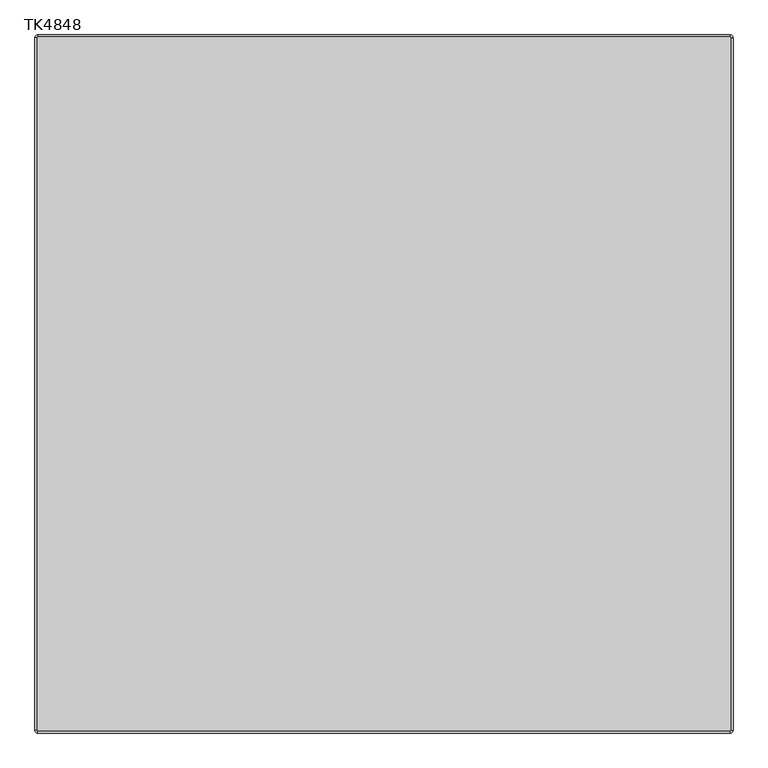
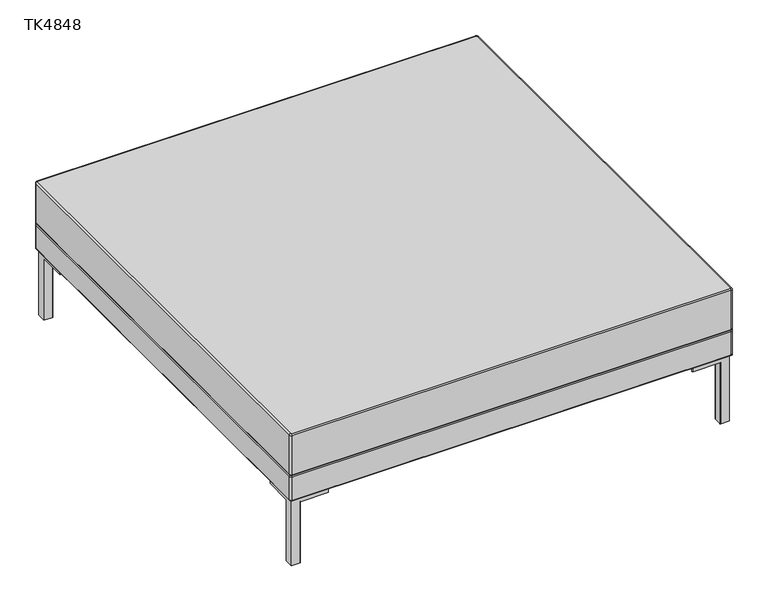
"""IFC4 building model written with IfcOpenShell, lengths in millimetres: furniture geometry, JSI-Teekan-Square_Ottoman : TK4848."""

from ifc_helpers import new_model, si_unit, point, frame, origin, place, context, project, spatial, circle_curve, ellipse_curve, trimmed, source, transform, mapped, element, save
from ifc_brep_helpers import plane_surface, cylinder_surface, revolved_surface, advanced_brep


def tk4848_6d53636c(model_context):
    return source(origin(), model_context, "Body", "AdvancedBrep", [
        advanced_brep(
        [(560.3875, -501.65, 192.6567329), (501.65, -560.3875, 192.6567329), (501.65, -601.6963055, 192.6567329), (601.6963055, -601.6963055, 192.6567329), (601.6963055, -501.65, 192.6567329), (501.65, -560.3875, 189.4817329), (560.3875, -501.65, 189.4817329), (600.075, -501.65, 189.4817329), (600.075, -577.85, 189.4817329), (579.4445539, -577.85, 189.4817329), (577.85, -579.4445539, 189.4817329), (577.85, -600.075, 189.4817329), (501.65, -600.075, 189.4817329), (603.25, -501.65, 191.1030384), (603.25, -501.65, 178.3692329), (600.075, -501.65, 178.3692329), (501.65, -600.075, 178.3692329), (501.65, -603.25, 178.3692329), (501.65, -603.25, 191.1030384), (601.6715276, -577.85, 0.0), (603.25, -579.4284724, 0.0), (603.25, -603.25, 0.0), (579.4303762, -603.25, 0.0), (577.85, -601.6696238, 0.0), (577.85, -579.4445539, 0.0), (579.4445539, -577.85, 0.0), (600.075, -577.85, 178.3692329), (601.6715276, -577.85, 178.3692329), (577.85, -601.6696238, 178.3692329), (577.85, -600.075, 178.3692329), (579.4303762, -603.25, 178.3692329), (603.25, -603.25, 191.1030384), (603.25, -579.4284724, 178.3692329)],
        [
            (0, 1),
            (1, 2),
            (2, 3),
            (3, 4),
            (4, 0),
            (5, 6),
            (6, 7),
            (7, 8),
            (8, 9),
            (9, 10, circle_curve(frame((579.4445539, -579.4445539, 189.4817329), z_axis=(0.0, 0.0, 1.0), x_axis=(-1.0, 0.0, 0.0)), 1.5945539)),
            (10, 11),
            (11, 12),
            (12, 5),
            (4, 13, circle_curve(frame((601.6963055, -501.65, 191.1030384), z_axis=(0.0, 1.0, 0.0), x_axis=(-1.0, 0.0, 0.0)), 1.5536945)),
            (13, 14),
            (14, 15),
            (15, 7),
            (6, 0),
            (5, 1),
            (12, 16),
            (16, 17),
            (17, 18),
            (18, 2, circle_curve(frame((501.65, -601.6963055, 191.1030384), z_axis=(-1.0, 0.0, 0.0), x_axis=(0.0, 1.0, 0.0)), 1.5536945)),
            (19, 20, circle_curve(frame((601.6715276, -579.4284724, 0.0), z_axis=(0.0, 0.0, -1.0), x_axis=(-1.0, 0.0, 0.0)), 1.5784724)),
            (20, 21),
            (21, 22),
            (22, 23, circle_curve(frame((579.4303762, -601.6696238, 0.0), z_axis=(0.0, 0.0, -1.0), x_axis=(-1.0, 0.0, 0.0)), 1.5803762)),
            (23, 24),
            (24, 25, circle_curve(frame((579.4445539, -579.4445539, 0.0), z_axis=(0.0, 0.0, -1.0), x_axis=(-1.0, 0.0, 0.0)), 1.5945539)),
            (25, 19),
            (25, 9),
            (8, 26),
            (26, 27),
            (27, 19),
            (24, 10),
            (23, 28),
            (28, 29),
            (29, 11),
            (22, 30),
            (30, 28, circle_curve(frame((579.4303762, -601.6696238, 178.3692329), z_axis=(0.0, 0.0, -1.0), x_axis=(-1.0, 0.0, 0.0)), 1.5803762)),
            (21, 31),
            (31, 18),
            (17, 30),
            (20, 32),
            (32, 14),
            (13, 31),
            (27, 32, circle_curve(frame((601.6715276, -579.4284724, 178.3692329), z_axis=(0.0, 0.0, -1.0), x_axis=(-1.0, 0.0, 0.0)), 1.5784724)),
            (29, 16),
            (26, 15),
            (31, 3, ellipse_curve(frame((601.6963055, -601.6963055, 191.1030384), z_axis=(-0.7071067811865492, -0.7071067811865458, 0.0), x_axis=(-0.7071067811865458, 0.7071067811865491, 0.0)), 2.1972559, 1.5536945)),
        ],
        [
            plane_surface(frame((587.4204481, -587.4204481, 192.6567329), z_axis=(0.0, 0.0, 1.0), x_axis=(1.0, 0.0, 0.0))),
            plane_surface(frame((587.4204481, -587.4204481, 189.4817329), z_axis=(0.0, 0.0, -1.0), x_axis=(-1.0, 0.0, 0.0))),
            plane_surface(frame((587.4204481, -501.65, 192.6567329), z_axis=(0.0, 1.0, 0.0), x_axis=(0.0, 0.0, -1.0))),
            plane_surface(frame((560.3875, -501.65, 192.6567329), z_axis=(-0.7071067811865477, 0.7071067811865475, 0.0), x_axis=(0.0, 0.0, -1.0))),
            plane_surface(frame((501.65, -560.3875, 192.6567329), z_axis=(-1.0, 0.0, 0.0), x_axis=(0.0, 0.0, -1.0))),
            plane_surface(frame((579.4375, -577.85, 0.0), z_axis=(0.0, 0.0, -1.0), x_axis=(1.0, 0.0, 0.0))),
            plane_surface(frame((601.6715276, -577.85, 189.4817329), z_axis=(0.0, 1.0, 0.0), x_axis=(0.0, 0.0, -1.0))),
            cylinder_surface(frame((579.4445539, -579.4445539, 0.0), z_axis=(0.0, 0.0, 1.0), x_axis=(-1.0, 0.0, 0.0)), 1.5945539),
            plane_surface(frame((577.85, -579.4445539, 189.4817329), z_axis=(-1.0, 0.0, 0.0), x_axis=(0.0, 0.0, -1.0))),
            cylinder_surface(frame((579.4303762, -601.6696238, 0.0), z_axis=(0.0, 0.0, 1.0), x_axis=(-1.0, 0.0, 0.0)), 1.5803762),
            plane_surface(frame((579.4303762, -603.25, 189.4817329), z_axis=(0.0, -1.0, 0.0), x_axis=(0.0, 0.0, -1.0))),
            plane_surface(frame((603.25, -603.25, 189.4817329), z_axis=(1.0, 0.0, 0.0), x_axis=(0.0, 0.0, -1.0))),
            cylinder_surface(frame((601.6715276, -579.4284724, 0.0), z_axis=(0.0, 0.0, 1.0), x_axis=(-1.0, 0.0, 0.0)), 1.5784724),
            plane_surface(frame((501.65, -600.075, 189.4817329), z_axis=(0.0, 1.0, 0.0), x_axis=(1.0, 0.0, 0.0))),
            plane_surface(frame((501.65, -600.075, 178.3692329), z_axis=(0.0, 0.0, -1.0), x_axis=(1.0, 0.0, 0.0))),
            cylinder_surface(frame((501.65, -601.6963055, 191.1030384), z_axis=(-1.0, 0.0, 0.0), x_axis=(0.0, 1.0, 0.0)), 1.5536945),
            plane_surface(frame((600.075, -600.075, 189.4817329), z_axis=(-1.0, 0.0, 0.0), x_axis=(0.0, 1.0, 0.0))),
            cylinder_surface(frame((601.6963055, -603.25, 191.1030384), z_axis=(0.0, -1.0, 0.0), x_axis=(-1.0, 0.0, 0.0)), 1.5536945),
        ],
        [
            (0, [[1, 2, 3, 4, 5]]),
            (1, [[6, 7, 8, 9, 10, 11, 12, 13]]),
            (2, [[-5, 14, 15, 16, 17, -7, 18]]),
            (3, [[-1, -18, -6, 19]]),
            (4, [[-2, -19, -13, 20, 21, 22, 23]]),
            (5, [[24, 25, 26, 27, 28, 29, 30]]),
            (6, [[-30, 31, -9, 32, 33, 34]]),
            (7, [[-29, 35, -10, -31]]),
            (8, [[-28, 36, 37, 38, -11, -35]]),
            (9, [[-27, 39, 40, -36]]),
            (10, [[-26, 41, 42, -22, 43, -39]]),
            (11, [[-41, -25, 44, 45, -15, 46]]),
            (12, [[-24, -34, 47, -44]]),
            (13, [[-20, -12, -38, 48]]),
            (14, [[-16, -45, -47, -33, 49]]),
            (14, [[-21, -48, -37, -40, -43]]),
            (15, [[-23, -42, 50, -3]]),
            (16, [[-17, -49, -32, -8]]),
            (17, [[-50, -46, -14, -4]]),
        ],
    ),
        advanced_brep(
        [(560.3875, 501.65, 192.6567329), (601.6963055, 501.65, 192.6567329), (601.6963055, 601.6963055, 192.6567329), (501.65, 601.6963055, 192.6567329), (501.65, 560.3875, 192.6567329), (501.65, 560.3875, 189.4817329), (501.65, 600.075, 189.4817329), (577.85, 600.075, 189.4817329), (577.85, 579.4445539, 189.4817329), (579.4445539, 577.85, 189.4817329), (600.075, 577.85, 189.4817329), (600.075, 501.65, 189.4817329), (560.3875, 501.65, 189.4817329), (600.075, 501.65, 178.3692329), (603.25, 501.65, 178.3692329), (603.25, 501.65, 191.1030384), (501.65, 603.25, 191.1030384), (501.65, 603.25, 178.3692329), (501.65, 600.075, 178.3692329), (601.6715276, 577.85, 0.0), (579.4445539, 577.85, 0.0), (577.85, 579.4445539, 0.0), (577.85, 601.6696238, 0.0), (579.4303762, 603.25, 0.0), (603.25, 603.25, 0.0), (603.25, 579.4284724, 0.0), (601.6715276, 577.85, 178.3692329), (600.075, 577.85, 178.3692329), (577.85, 600.075, 178.3692329), (577.85, 601.6696238, 178.3692329), (579.4303762, 603.25, 178.3692329), (603.25, 603.25, 191.1030384), (603.25, 579.4284724, 178.3692329)],
        [
            (0, 1),
            (1, 2),
            (2, 3),
            (3, 4),
            (4, 0),
            (5, 6),
            (6, 7),
            (7, 8),
            (8, 9, circle_curve(frame((579.4445539, 579.4445539, 189.4817329), z_axis=(0.0, 0.0, 1.0), x_axis=(-1.0, 0.0, 0.0)), 1.5945539)),
            (9, 10),
            (10, 11),
            (11, 12),
            (12, 5),
            (0, 12),
            (11, 13),
            (13, 14),
            (14, 15),
            (15, 1, circle_curve(frame((601.6963055, 501.65, 191.1030384), z_axis=(0.0, -1.0, 0.0), x_axis=(-1.0, 0.0, 0.0)), 1.5536945)),
            (4, 5),
            (3, 16, circle_curve(frame((501.65, 601.6963055, 191.1030384), z_axis=(-1.0, 0.0, 0.0), x_axis=(0.0, -1.0, 0.0)), 1.5536945)),
            (16, 17),
            (17, 18),
            (18, 6),
            (19, 20),
            (20, 21, circle_curve(frame((579.4445539, 579.4445539, 0.0), z_axis=(0.0, 0.0, -1.0), x_axis=(-1.0, 0.0, 0.0)), 1.5945539)),
            (21, 22),
            (22, 23, circle_curve(frame((579.4303762, 601.6696238, 0.0), z_axis=(0.0, 0.0, -1.0), x_axis=(-1.0, 0.0, 0.0)), 1.5803762)),
            (23, 24),
            (24, 25),
            (25, 19, circle_curve(frame((601.6715276, 579.4284724, 0.0), z_axis=(0.0, 0.0, -1.0), x_axis=(-1.0, 0.0, 0.0)), 1.5784724)),
            (19, 26),
            (26, 27),
            (27, 10),
            (9, 20),
            (8, 21),
            (7, 28),
            (28, 29),
            (29, 22),
            (29, 30, circle_curve(frame((579.4303762, 601.6696238, 178.3692329), z_axis=(0.0, 0.0, -1.0), x_axis=(-1.0, 0.0, 0.0)), 1.5803762)),
            (30, 23),
            (30, 17),
            (16, 31),
            (31, 24),
            (31, 15),
            (14, 32),
            (32, 25),
            (32, 26, circle_curve(frame((601.6715276, 579.4284724, 178.3692329), z_axis=(0.0, 0.0, -1.0), x_axis=(-1.0, 0.0, 0.0)), 1.5784724)),
            (18, 28),
            (13, 27),
            (2, 31, ellipse_curve(frame((601.6963055, 601.6963055, 191.1030384), z_axis=(-0.7071067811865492, 0.7071067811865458, 0.0), x_axis=(-0.7071067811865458, -0.7071067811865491, 0.0)), 2.1972559, 1.5536945)),
        ],
        [
            plane_surface(frame((587.4204481, 587.4204481, 192.6567329), z_axis=(0.0, 0.0, 1.0), x_axis=(1.0, 0.0, 0.0))),
            plane_surface(frame((587.4204481, 587.4204481, 189.4817329), z_axis=(0.0, 0.0, -1.0), x_axis=(-1.0, 0.0, 0.0))),
            plane_surface(frame((587.4204481, 501.65, 192.6567329), z_axis=(0.0, -1.0, 0.0), x_axis=(0.0, 0.0, -1.0))),
            plane_surface(frame((560.3875, 501.65, 192.6567329), z_axis=(-0.7071067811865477, -0.7071067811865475, 0.0), x_axis=(0.0, 0.0, -1.0))),
            plane_surface(frame((501.65, 560.3875, 192.6567329), z_axis=(-1.0, 0.0, 0.0), x_axis=(0.0, 0.0, -1.0))),
            plane_surface(frame((579.4375, 577.85, 0.0), z_axis=(0.0, 0.0, -1.0), x_axis=(1.0, 0.0, 0.0))),
            plane_surface(frame((601.6715276, 577.85, 189.4817329), z_axis=(0.0, -1.0, 0.0), x_axis=(0.0, 0.0, -1.0))),
            cylinder_surface(frame((579.4445539, 579.4445539, 0.0), z_axis=(0.0, 0.0, 1.0), x_axis=(-1.0, 0.0, 0.0)), 1.5945539),
            plane_surface(frame((577.85, 579.4445539, 189.4817329), z_axis=(-1.0, 0.0, 0.0), x_axis=(0.0, 0.0, -1.0))),
            cylinder_surface(frame((579.4303762, 601.6696238, 0.0), z_axis=(0.0, 0.0, 1.0), x_axis=(-1.0, 0.0, 0.0)), 1.5803762),
            plane_surface(frame((579.4303762, 603.25, 189.4817329), z_axis=(0.0, 1.0, 0.0), x_axis=(0.0, 0.0, -1.0))),
            plane_surface(frame((603.25, 603.25, 189.4817329), z_axis=(1.0, 0.0, 0.0), x_axis=(0.0, 0.0, -1.0))),
            cylinder_surface(frame((601.6715276, 579.4284724, 0.0), z_axis=(0.0, 0.0, 1.0), x_axis=(-1.0, 0.0, 0.0)), 1.5784724),
            plane_surface(frame((501.65, 600.075, 189.4817329), z_axis=(0.0, -1.0, 0.0), x_axis=(1.0, 0.0, 0.0))),
            plane_surface(frame((501.65, 600.075, 178.3692329), z_axis=(0.0, 0.0, -1.0), x_axis=(1.0, 0.0, 0.0))),
            cylinder_surface(frame((501.65, 601.6963055, 191.1030384), z_axis=(-1.0, 0.0, 0.0), x_axis=(0.0, -1.0, 0.0)), 1.5536945),
            plane_surface(frame((600.075, 600.075, 189.4817329), z_axis=(-1.0, 0.0, 0.0), x_axis=(0.0, -1.0, 0.0))),
            cylinder_surface(frame((601.6963055, 603.25, 191.1030384), z_axis=(0.0, 1.0, 0.0), x_axis=(-1.0, 0.0, 0.0)), 1.5536945),
        ],
        [
            (0, [[1, 2, 3, 4, 5]]),
            (1, [[6, 7, 8, 9, 10, 11, 12, 13]]),
            (2, [[14, -12, 15, 16, 17, 18, -1]]),
            (3, [[19, -13, -14, -5]]),
            (4, [[20, 21, 22, 23, -6, -19, -4]]),
            (5, [[24, 25, 26, 27, 28, 29, 30]]),
            (6, [[31, 32, 33, -10, 34, -24]]),
            (7, [[-34, -9, 35, -25]]),
            (8, [[-35, -8, 36, 37, 38, -26]]),
            (9, [[-38, 39, 40, -27]]),
            (10, [[-40, 41, -21, 42, 43, -28]]),
            (11, [[44, -17, 45, 46, -29, -43]]),
            (12, [[-46, 47, -31, -30]]),
            (13, [[48, -36, -7, -23]]),
            (14, [[-41, -39, -37, -48, -22]]),
            (14, [[49, -32, -47, -45, -16]]),
            (15, [[-3, 50, -42, -20]]),
            (16, [[-11, -33, -49, -15]]),
            (17, [[-2, -18, -44, -50]]),
        ],
    ),
        advanced_brep(
        [(609.6, 604.8375, 384.2438984), (604.8375, 609.6, 384.2438984), (604.8375, 606.425, 387.4188984), (606.425, 604.8375, 387.4188984), (609.6, 604.8375, 269.9438984), (604.8375, 609.6, 269.9438984), (606.425, 604.8375, 266.7688984), (604.8375, 606.425, 266.7688984), (606.425, -604.8375, 387.4188984), (609.6, -604.8375, 384.2438984), (609.6, -604.8375, 269.9438984), (606.425, -604.8375, 266.7688984), (604.8375, -606.425, 387.4188984), (604.8375, -609.6, 384.2438984), (604.8375, -609.6, 269.9438984), (604.8375, -606.425, 266.7688984), (-604.8375, -606.425, 387.4188984), (-604.8375, -609.6, 384.2438984), (-604.8375, -609.6, 269.9438984), (-604.8375, -606.425, 266.7688984), (-606.425, -604.8375, 387.4188984), (-609.6, -604.8375, 384.2438984), (-609.6, -604.8375, 269.9438984), (-606.425, -604.8375, 266.7688984), (-606.425, 604.8375, 387.4188984), (-609.6, 604.8375, 384.2438984), (-609.6, 604.8375, 269.9438984), (-606.425, 604.8375, 266.7688984), (-604.8375, 606.425, 387.4188984), (-604.8375, 609.6, 384.2438984), (-604.8375, 609.6, 269.9438984), (-604.8375, 606.425, 266.7688984)],
        [
            (0, 1, circle_curve(frame((604.8375, 604.8375, 384.2438984), z_axis=(0.0, 0.0, 1.0), x_axis=(0.0, 1.0, 0.0)), 4.7625)),
            (1, 2, circle_curve(frame((604.8375, 606.425, 384.2438984), z_axis=(1.0, 0.0, 0.0), x_axis=(0.0, 1.0, 0.0)), 3.175)),
            (2, 3, circle_curve(frame((604.8375, 604.8375, 387.4188984), z_axis=(0.0, 0.0, -1.0), x_axis=(0.0, 1.0, 0.0)), 1.5875)),
            (3, 0, circle_curve(frame((606.425, 604.8375, 384.2438984), z_axis=(0.0, 1.0, 0.0), x_axis=(1.0, 0.0, 0.0)), 3.175)),
            (0, 4),
            (4, 5, circle_curve(frame((604.8375, 604.8375, 269.9438984), z_axis=(0.0, 0.0, 1.0), x_axis=(0.0, 1.0, 0.0)), 4.7625)),
            (5, 1),
            (4, 6, circle_curve(frame((606.425, 604.8375, 269.9438984), z_axis=(0.0, 1.0, 0.0), x_axis=(1.0, 0.0, 0.0)), 3.175)),
            (6, 7, circle_curve(frame((604.8375, 604.8375, 266.7688984), z_axis=(0.0, 0.0, 1.0), x_axis=(0.0, 1.0, 0.0)), 1.5875)),
            (7, 5, circle_curve(frame((604.8375, 606.425, 269.9438984), z_axis=(1.0, 0.0, 0.0), x_axis=(0.0, 1.0, 0.0)), 3.175)),
            (3, 8),
            (8, 9, circle_curve(frame((606.425, -604.8375, 384.2438984), z_axis=(0.0, 1.0, 0.0), x_axis=(1.0, 0.0, 0.0)), 3.175)),
            (9, 0),
            (9, 10),
            (10, 4),
            (10, 11, circle_curve(frame((606.425, -604.8375, 269.9438984), z_axis=(0.0, 1.0, 0.0), x_axis=(1.0, 0.0, 0.0)), 3.175)),
            (11, 6),
            (8, 12, circle_curve(frame((604.8375, -604.8375, 387.4188984), z_axis=(0.0, 0.0, -1.0), x_axis=(1.0, 0.0, 0.0)), 1.5875)),
            (12, 13, circle_curve(frame((604.8375, -606.425, 384.2438984), z_axis=(1.0, 0.0, 0.0), x_axis=(0.0, -1.0, 0.0)), 3.175)),
            (13, 9, circle_curve(frame((604.8375, -604.8375, 384.2438984), z_axis=(0.0, 0.0, 1.0), x_axis=(1.0, 0.0, 0.0)), 4.7625)),
            (13, 14),
            (14, 10, circle_curve(frame((604.8375, -604.8375, 269.9438984), z_axis=(0.0, 0.0, 1.0), x_axis=(1.0, 0.0, 0.0)), 4.7625)),
            (14, 15, circle_curve(frame((604.8375, -606.425, 269.9438984), z_axis=(1.0, 0.0, 0.0), x_axis=(0.0, -1.0, 0.0)), 3.175)),
            (15, 11, circle_curve(frame((604.8375, -604.8375, 266.7688984), z_axis=(0.0, 0.0, 1.0), x_axis=(1.0, 0.0, 0.0)), 1.5875)),
            (12, 16),
            (16, 17, circle_curve(frame((-604.8375, -606.425, 384.2438984), z_axis=(1.0, 0.0, 0.0), x_axis=(0.0, -1.0, 0.0)), 3.175)),
            (17, 13),
            (17, 18),
            (18, 14),
            (18, 19, circle_curve(frame((-604.8375, -606.425, 269.9438984), z_axis=(1.0, 0.0, 0.0), x_axis=(0.0, -1.0, 0.0)), 3.175)),
            (19, 15),
            (16, 20, circle_curve(frame((-604.8375, -604.8375, 387.4188984), z_axis=(0.0, 0.0, -1.0), x_axis=(0.0, -1.0, 0.0)), 1.5875)),
            (20, 21, circle_curve(frame((-606.425, -604.8375, 384.2438984), z_axis=(0.0, -1.0, 0.0), x_axis=(-1.0, 0.0, 0.0)), 3.175)),
            (21, 17, circle_curve(frame((-604.8375, -604.8375, 384.2438984), z_axis=(0.0, 0.0, 1.0), x_axis=(0.0, -1.0, 0.0)), 4.7625)),
            (21, 22),
            (22, 18, circle_curve(frame((-604.8375, -604.8375, 269.9438984), z_axis=(0.0, 0.0, 1.0), x_axis=(0.0, -1.0, 0.0)), 4.7625)),
            (22, 23, circle_curve(frame((-606.425, -604.8375, 269.9438984), z_axis=(0.0, -1.0, 0.0), x_axis=(-1.0, 0.0, 0.0)), 3.175)),
            (23, 19, circle_curve(frame((-604.8375, -604.8375, 266.7688984), z_axis=(0.0, 0.0, 1.0), x_axis=(0.0, -1.0, 0.0)), 1.5875)),
            (20, 24),
            (24, 25, circle_curve(frame((-606.425, 604.8375, 384.2438984), z_axis=(0.0, -1.0, 0.0), x_axis=(-1.0, 0.0, 0.0)), 3.175)),
            (25, 21),
            (25, 26),
            (26, 22),
            (26, 27, circle_curve(frame((-606.425, 604.8375, 269.9438984), z_axis=(0.0, -1.0, 0.0), x_axis=(-1.0, 0.0, 0.0)), 3.175)),
            (27, 23),
            (24, 28, circle_curve(frame((-604.8375, 604.8375, 387.4188984), z_axis=(0.0, 0.0, -1.0), x_axis=(-1.0, 0.0, 0.0)), 1.5875)),
            (28, 29, circle_curve(frame((-604.8375, 606.425, 384.2438984), z_axis=(-1.0, 0.0, 0.0), x_axis=(0.0, 1.0, 0.0)), 3.175)),
            (29, 25, circle_curve(frame((-604.8375, 604.8375, 384.2438984), z_axis=(0.0, 0.0, 1.0), x_axis=(-1.0, 0.0, 0.0)), 4.7625)),
            (29, 30),
            (30, 26, circle_curve(frame((-604.8375, 604.8375, 269.9438984), z_axis=(0.0, 0.0, 1.0), x_axis=(-1.0, 0.0, 0.0)), 4.7625)),
            (30, 31, circle_curve(frame((-604.8375, 606.425, 269.9438984), z_axis=(-1.0, 0.0, 0.0), x_axis=(0.0, 1.0, 0.0)), 3.175)),
            (31, 27, circle_curve(frame((-604.8375, 604.8375, 266.7688984), z_axis=(0.0, 0.0, 1.0), x_axis=(-1.0, 0.0, 0.0)), 1.5875)),
            (31, 7),
            (2, 28),
            (1, 29),
            (5, 30),
        ],
        [
            revolved_surface(trimmed(ellipse_curve(frame((604.8375, 606.425, 384.2438984), z_axis=(-1.0, 0.0, 0.0), x_axis=(0.0, 1.0, 0.0)), 3.175, 3.175), [point((604.8375, 606.425, 387.4188984))], [point((604.8375, 609.6, 384.2438984))], True, "CARTESIAN"), (604.8375, 604.8375, 0.0), (0.0, 0.0, -1.0)),
            cylinder_surface(frame((604.8375, 604.8375, 0.0), z_axis=(0.0, 0.0, -1.0), x_axis=(0.0, 1.0, 0.0)), 4.7625),
            revolved_surface(trimmed(ellipse_curve(frame((604.8375, 606.425, 269.9438984), z_axis=(-1.0, 0.0, 0.0), x_axis=(0.0, 1.0, 0.0)), 3.175, 3.175), [point((604.8375, 609.6, 269.9438984))], [point((604.8375, 606.425, 266.7688984))], True, "CARTESIAN"), (604.8375, 604.8375, 0.0), (0.0, 0.0, -1.0)),
            cylinder_surface(frame((606.425, 604.8375, 384.2438984), z_axis=(0.0, 1.0, 0.0), x_axis=(1.0, 0.0, 0.0)), 3.175),
            plane_surface(frame((609.6, 604.8375, 384.2438984), z_axis=(1.0, 0.0, 0.0), x_axis=(0.0, -1.0, 0.0))),
            cylinder_surface(frame((606.425, 604.8375, 269.9438984), z_axis=(0.0, 1.0, 0.0), x_axis=(1.0, 0.0, 0.0)), 3.175),
            revolved_surface(trimmed(ellipse_curve(frame((606.425, -604.8375, 384.2438984), z_axis=(0.0, 1.0, 0.0), x_axis=(1.0, 0.0, 0.0)), 3.175, 3.175), [point((606.425, -604.8375, 387.4188984))], [point((609.6, -604.8375, 384.2438984))], True, "CARTESIAN"), (604.8375, -604.8375, 0.0), (0.0, 0.0, -1.0)),
            cylinder_surface(frame((604.8375, -604.8375, 0.0), z_axis=(0.0, 0.0, -1.0), x_axis=(1.0, 0.0, 0.0)), 4.7625),
            revolved_surface(trimmed(ellipse_curve(frame((606.425, -604.8375, 269.9438984), z_axis=(0.0, 1.0, 0.0), x_axis=(1.0, 0.0, 0.0)), 3.175, 3.175), [point((609.6, -604.8375, 269.9438984))], [point((606.425, -604.8375, 266.7688984))], True, "CARTESIAN"), (604.8375, -604.8375, 0.0), (0.0, 0.0, -1.0)),
            cylinder_surface(frame((604.8375, -606.425, 384.2438984), z_axis=(1.0, 0.0, 0.0), x_axis=(0.0, -1.0, 0.0)), 3.175),
            plane_surface(frame((604.8375, -609.6, 384.2438984), z_axis=(0.0, -1.0, 0.0), x_axis=(-1.0, 0.0, 0.0))),
            cylinder_surface(frame((604.8375, -606.425, 269.9438984), z_axis=(1.0, 0.0, 0.0), x_axis=(0.0, -1.0, 0.0)), 3.175),
            revolved_surface(trimmed(ellipse_curve(frame((-604.8375, -606.425, 384.2438984), z_axis=(1.0, 0.0, 0.0), x_axis=(0.0, -1.0, 0.0)), 3.175, 3.175), [point((-604.8375, -606.425, 387.4188984))], [point((-604.8375, -609.6, 384.2438984))], True, "CARTESIAN"), (-604.8375, -604.8375, 0.0), (0.0, 0.0, -1.0)),
            cylinder_surface(frame((-604.8375, -604.8375, 0.0), z_axis=(0.0, 0.0, -1.0), x_axis=(0.0, -1.0, 0.0)), 4.7625),
            revolved_surface(trimmed(ellipse_curve(frame((-604.8375, -606.425, 269.9438984), z_axis=(1.0, 0.0, 0.0), x_axis=(0.0, -1.0, 0.0)), 3.175, 3.175), [point((-604.8375, -609.6, 269.9438984))], [point((-604.8375, -606.425, 266.7688984))], True, "CARTESIAN"), (-604.8375, -604.8375, 0.0), (0.0, 0.0, -1.0)),
            cylinder_surface(frame((-606.425, -604.8375, 384.2438984), z_axis=(0.0, -1.0, 0.0), x_axis=(-1.0, 0.0, 0.0)), 3.175),
            plane_surface(frame((-609.6, -604.8375, 384.2438984), z_axis=(-1.0, 0.0, 0.0), x_axis=(0.0, 1.0, 0.0))),
            cylinder_surface(frame((-606.425, -604.8375, 269.9438984), z_axis=(0.0, -1.0, 0.0), x_axis=(-1.0, 0.0, 0.0)), 3.175),
            revolved_surface(trimmed(ellipse_curve(frame((-606.425, 604.8375, 384.2438984), z_axis=(0.0, -1.0, 0.0), x_axis=(-1.0, 0.0, 0.0)), 3.175, 3.175), [point((-606.425, 604.8375, 387.4188984))], [point((-609.6, 604.8375, 384.2438984))], True, "CARTESIAN"), (-604.8375, 604.8375, 0.0), (0.0, 0.0, -1.0)),
            cylinder_surface(frame((-604.8375, 604.8375, 0.0), z_axis=(0.0, 0.0, -1.0), x_axis=(-1.0, 0.0, 0.0)), 4.7625),
            revolved_surface(trimmed(ellipse_curve(frame((-606.425, 604.8375, 269.9438984), z_axis=(0.0, -1.0, 0.0), x_axis=(-1.0, 0.0, 0.0)), 3.175, 3.175), [point((-609.6, 604.8375, 269.9438984))], [point((-606.425, 604.8375, 266.7688984))], True, "CARTESIAN"), (-604.8375, 604.8375, 0.0), (0.0, 0.0, -1.0)),
            plane_surface(frame((-604.8375, 606.425, 266.7688984), z_axis=(0.0, 0.0, -1.0), x_axis=(1.0, 0.0, 0.0))),
            plane_surface(frame((-604.8375, 605.63125, 387.4188984), z_axis=(0.0, 0.0, 1.0), x_axis=(1.0, 0.0, 0.0))),
            cylinder_surface(frame((-604.8375, 606.425, 384.2438984), z_axis=(-1.0, 0.0, 0.0), x_axis=(0.0, 1.0, 0.0)), 3.175),
            plane_surface(frame((-604.8375, 609.6, 384.2438984), z_axis=(0.0, 1.0, 0.0), x_axis=(1.0, 0.0, 0.0))),
            cylinder_surface(frame((-604.8375, 606.425, 269.9438984), z_axis=(-1.0, 0.0, 0.0), x_axis=(0.0, 1.0, 0.0)), 3.175),
        ],
        [
            (0, [[1, 2, 3, 4]]),
            (1, [[-1, 5, 6, 7]]),
            (2, [[-6, 8, 9, 10]]),
            (3, [[-4, 11, 12, 13]]),
            (4, [[-5, -13, 14, 15]]),
            (5, [[-8, -15, 16, 17]]),
            (6, [[-12, 18, 19, 20]]),
            (7, [[-14, -20, 21, 22]]),
            (8, [[-16, -22, 23, 24]]),
            (9, [[-19, 25, 26, 27]]),
            (10, [[-21, -27, 28, 29]]),
            (11, [[-23, -29, 30, 31]]),
            (12, [[-26, 32, 33, 34]]),
            (13, [[-28, -34, 35, 36]]),
            (14, [[-30, -36, 37, 38]]),
            (15, [[-33, 39, 40, 41]]),
            (16, [[-35, -41, 42, 43]]),
            (17, [[-37, -43, 44, 45]]),
            (18, [[-40, 46, 47, 48]]),
            (19, [[-42, -48, 49, 50]]),
            (20, [[-44, -50, 51, 52]]),
            (21, [[-9, -17, -24, -31, -38, -45, -52, 53]]),
            (22, [[-3, 54, -46, -39, -32, -25, -18, -11]]),
            (23, [[-2, 55, -47, -54]]),
            (24, [[-7, 56, -49, -55]]),
            (25, [[-10, -53, -51, -56]]),
        ],
    ),
        advanced_brep(
        [(-560.3875, -501.65, 192.6567329), (-601.6963055, -501.65, 192.6567329), (-601.6963055, -601.6963055, 192.6567329), (-501.65, -601.6963055, 192.6567329), (-501.65, -560.3875, 192.6567329), (-501.65, -560.3875, 189.4817329), (-501.65, -600.075, 189.4817329), (-577.85, -600.075, 189.4817329), (-577.85, -579.4445539, 189.4817329), (-579.4445539, -577.85, 189.4817329), (-600.075, -577.85, 189.4817329), (-600.075, -501.65, 189.4817329), (-560.3875, -501.65, 189.4817329), (-600.075, -501.65, 178.3692329), (-603.25, -501.65, 178.3692329), (-603.25, -501.65, 191.1030384), (-501.65, -603.25, 191.1030384), (-501.65, -603.25, 178.3692329), (-501.65, -600.075, 178.3692329), (-601.6715276, -577.85, 0.0), (-579.4445539, -577.85, 0.0), (-577.85, -579.4445539, 0.0), (-577.85, -601.6696238, 0.0), (-579.4303762, -603.25, 0.0), (-603.25, -603.25, 0.0), (-603.25, -579.4284724, 0.0), (-601.6715276, -577.85, 178.3692329), (-600.075, -577.85, 178.3692329), (-577.85, -600.075, 178.3692329), (-577.85, -601.6696238, 178.3692329), (-579.4303762, -603.25, 178.3692329), (-603.25, -603.25, 191.1030384), (-603.25, -579.4284724, 178.3692329)],
        [
            (0, 1),
            (1, 2),
            (2, 3),
            (3, 4),
            (4, 0),
            (5, 6),
            (6, 7),
            (7, 8),
            (8, 9, circle_curve(frame((-579.4445539, -579.4445539, 189.4817329), z_axis=(0.0, 0.0, 1.0), x_axis=(1.0, 0.0, 0.0)), 1.5945539)),
            (9, 10),
            (10, 11),
            (11, 12),
            (12, 5),
            (0, 12),
            (11, 13),
            (13, 14),
            (14, 15),
            (15, 1, circle_curve(frame((-601.6963055, -501.65, 191.1030384), z_axis=(0.0, 1.0, 0.0), x_axis=(1.0, 0.0, 0.0)), 1.5536945)),
            (4, 5),
            (3, 16, circle_curve(frame((-501.65, -601.6963055, 191.1030384), z_axis=(1.0, 0.0, 0.0), x_axis=(0.0, 1.0, 0.0)), 1.5536945)),
            (16, 17),
            (17, 18),
            (18, 6),
            (19, 20),
            (20, 21, circle_curve(frame((-579.4445539, -579.4445539, 0.0), z_axis=(0.0, 0.0, -1.0), x_axis=(1.0, 0.0, 0.0)), 1.5945539)),
            (21, 22),
            (22, 23, circle_curve(frame((-579.4303762, -601.6696238, 0.0), z_axis=(0.0, 0.0, -1.0), x_axis=(1.0, 0.0, 0.0)), 1.5803762)),
            (23, 24),
            (24, 25),
            (25, 19, circle_curve(frame((-601.6715276, -579.4284724, 0.0), z_axis=(0.0, 0.0, -1.0), x_axis=(1.0, 0.0, 0.0)), 1.5784724)),
            (19, 26),
            (26, 27),
            (27, 10),
            (9, 20),
            (8, 21),
            (7, 28),
            (28, 29),
            (29, 22),
            (29, 30, circle_curve(frame((-579.4303762, -601.6696238, 178.3692329), z_axis=(0.0, 0.0, -1.0), x_axis=(1.0, 0.0, 0.0)), 1.5803762)),
            (30, 23),
            (30, 17),
            (16, 31),
            (31, 24),
            (31, 15),
            (14, 32),
            (32, 25),
            (32, 26, circle_curve(frame((-601.6715276, -579.4284724, 178.3692329), z_axis=(0.0, 0.0, -1.0), x_axis=(1.0, 0.0, 0.0)), 1.5784724)),
            (18, 28),
            (13, 27),
            (2, 31, ellipse_curve(frame((-601.6963055, -601.6963055, 191.1030384), z_axis=(0.7071067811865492, -0.7071067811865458, 0.0), x_axis=(0.7071067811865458, 0.7071067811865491, 0.0)), 2.1972559, 1.5536945)),
        ],
        [
            plane_surface(frame((-587.4204481, -587.4204481, 192.6567329), z_axis=(0.0, 0.0, 1.0), x_axis=(-1.0, 0.0, 0.0))),
            plane_surface(frame((-587.4204481, -587.4204481, 189.4817329), z_axis=(0.0, 0.0, -1.0), x_axis=(1.0, 0.0, 0.0))),
            plane_surface(frame((-587.4204481, -501.65, 192.6567329), z_axis=(0.0, 1.0, 0.0), x_axis=(0.0, 0.0, -1.0))),
            plane_surface(frame((-560.3875, -501.65, 192.6567329), z_axis=(0.7071067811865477, 0.7071067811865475, 0.0), x_axis=(0.0, 0.0, -1.0))),
            plane_surface(frame((-501.65, -560.3875, 192.6567329), z_axis=(1.0, 0.0, 0.0), x_axis=(0.0, 0.0, -1.0))),
            plane_surface(frame((-579.4375, -577.85, 0.0), z_axis=(0.0, 0.0, -1.0), x_axis=(-1.0, 0.0, 0.0))),
            plane_surface(frame((-601.6715276, -577.85, 189.4817329), z_axis=(0.0, 1.0, 0.0), x_axis=(0.0, 0.0, -1.0))),
            cylinder_surface(frame((-579.4445539, -579.4445539, 0.0), z_axis=(0.0, 0.0, 1.0), x_axis=(1.0, 0.0, 0.0)), 1.5945539),
            plane_surface(frame((-577.85, -579.4445539, 189.4817329), z_axis=(1.0, 0.0, 0.0), x_axis=(0.0, 0.0, -1.0))),
            cylinder_surface(frame((-579.4303762, -601.6696238, 0.0), z_axis=(0.0, 0.0, 1.0), x_axis=(1.0, 0.0, 0.0)), 1.5803762),
            plane_surface(frame((-579.4303762, -603.25, 189.4817329), z_axis=(0.0, -1.0, 0.0), x_axis=(0.0, 0.0, -1.0))),
            plane_surface(frame((-603.25, -603.25, 189.4817329), z_axis=(-1.0, 0.0, 0.0), x_axis=(0.0, 0.0, -1.0))),
            cylinder_surface(frame((-601.6715276, -579.4284724, 0.0), z_axis=(0.0, 0.0, 1.0), x_axis=(1.0, 0.0, 0.0)), 1.5784724),
            plane_surface(frame((-501.65, -600.075, 189.4817329), z_axis=(0.0, 1.0, 0.0), x_axis=(-1.0, 0.0, 0.0))),
            plane_surface(frame((-501.65, -600.075, 178.3692329), z_axis=(0.0, 0.0, -1.0), x_axis=(-1.0, 0.0, 0.0))),
            cylinder_surface(frame((-501.65, -601.6963055, 191.1030384), z_axis=(1.0, 0.0, 0.0), x_axis=(0.0, 1.0, 0.0)), 1.5536945),
            plane_surface(frame((-600.075, -600.075, 189.4817329), z_axis=(1.0, 0.0, 0.0), x_axis=(0.0, 1.0, 0.0))),
            cylinder_surface(frame((-601.6963055, -603.25, 191.1030384), z_axis=(0.0, -1.0, 0.0), x_axis=(1.0, 0.0, 0.0)), 1.5536945),
        ],
        [
            (0, [[1, 2, 3, 4, 5]]),
            (1, [[6, 7, 8, 9, 10, 11, 12, 13]]),
            (2, [[14, -12, 15, 16, 17, 18, -1]]),
            (3, [[19, -13, -14, -5]]),
            (4, [[20, 21, 22, 23, -6, -19, -4]]),
            (5, [[24, 25, 26, 27, 28, 29, 30]]),
            (6, [[31, 32, 33, -10, 34, -24]]),
            (7, [[-34, -9, 35, -25]]),
            (8, [[-35, -8, 36, 37, 38, -26]]),
            (9, [[-38, 39, 40, -27]]),
            (10, [[-40, 41, -21, 42, 43, -28]]),
            (11, [[44, -17, 45, 46, -29, -43]]),
            (12, [[-46, 47, -31, -30]]),
            (13, [[48, -36, -7, -23]]),
            (14, [[-41, -39, -37, -48, -22]]),
            (14, [[49, -32, -47, -45, -16]]),
            (15, [[-3, 50, -42, -20]]),
            (16, [[-11, -33, -49, -15]]),
            (17, [[-2, -18, -44, -50]]),
        ],
    ),
        advanced_brep(
        [(-560.3875, 501.65, 192.6567329), (-501.65, 560.3875, 192.6567329), (-501.65, 601.6963055, 192.6567329), (-601.6963055, 601.6963055, 192.6567329), (-601.6963055, 501.65, 192.6567329), (-501.65, 560.3875, 189.4817329), (-560.3875, 501.65, 189.4817329), (-600.075, 501.65, 189.4817329), (-600.075, 577.85, 189.4817329), (-579.4445539, 577.85, 189.4817329), (-577.85, 579.4445539, 189.4817329), (-577.85, 600.075, 189.4817329), (-501.65, 600.075, 189.4817329), (-603.25, 501.65, 191.1030384), (-603.25, 501.65, 178.3692329), (-600.075, 501.65, 178.3692329), (-501.65, 600.075, 178.3692329), (-501.65, 603.25, 178.3692329), (-501.65, 603.25, 191.1030384), (-601.6715276, 577.85, 0.0), (-603.25, 579.4284724, 0.0), (-603.25, 603.25, 0.0), (-579.4303762, 603.25, 0.0), (-577.85, 601.6696238, 0.0), (-577.85, 579.4445539, 0.0), (-579.4445539, 577.85, 0.0), (-600.075, 577.85, 178.3692329), (-601.6715276, 577.85, 178.3692329), (-577.85, 601.6696238, 178.3692329), (-577.85, 600.075, 178.3692329), (-579.4303762, 603.25, 178.3692329), (-603.25, 603.25, 191.1030384), (-603.25, 579.4284724, 178.3692329)],
        [
            (0, 1),
            (1, 2),
            (2, 3),
            (3, 4),
            (4, 0),
            (5, 6),
            (6, 7),
            (7, 8),
            (8, 9),
            (9, 10, circle_curve(frame((-579.4445539, 579.4445539, 189.4817329), z_axis=(0.0, 0.0, 1.0), x_axis=(1.0, 0.0, 0.0)), 1.5945539)),
            (10, 11),
            (11, 12),
            (12, 5),
            (4, 13, circle_curve(frame((-601.6963055, 501.65, 191.1030384), z_axis=(0.0, -1.0, 0.0), x_axis=(1.0, 0.0, 0.0)), 1.5536945)),
            (13, 14),
            (14, 15),
            (15, 7),
            (6, 0),
            (5, 1),
            (12, 16),
            (16, 17),
            (17, 18),
            (18, 2, circle_curve(frame((-501.65, 601.6963055, 191.1030384), z_axis=(1.0, 0.0, 0.0), x_axis=(0.0, -1.0, 0.0)), 1.5536945)),
            (19, 20, circle_curve(frame((-601.6715276, 579.4284724, 0.0), z_axis=(0.0, 0.0, -1.0), x_axis=(1.0, 0.0, 0.0)), 1.5784724)),
            (20, 21),
            (21, 22),
            (22, 23, circle_curve(frame((-579.4303762, 601.6696238, 0.0), z_axis=(0.0, 0.0, -1.0), x_axis=(1.0, 0.0, 0.0)), 1.5803762)),
            (23, 24),
            (24, 25, circle_curve(frame((-579.4445539, 579.4445539, 0.0), z_axis=(0.0, 0.0, -1.0), x_axis=(1.0, 0.0, 0.0)), 1.5945539)),
            (25, 19),
            (25, 9),
            (8, 26),
            (26, 27),
            (27, 19),
            (24, 10),
            (23, 28),
            (28, 29),
            (29, 11),
            (22, 30),
            (30, 28, circle_curve(frame((-579.4303762, 601.6696238, 178.3692329), z_axis=(0.0, 0.0, -1.0), x_axis=(1.0, 0.0, 0.0)), 1.5803762)),
            (21, 31),
            (31, 18),
            (17, 30),
            (20, 32),
            (32, 14),
            (13, 31),
            (27, 32, circle_curve(frame((-601.6715276, 579.4284724, 178.3692329), z_axis=(0.0, 0.0, -1.0), x_axis=(1.0, 0.0, 0.0)), 1.5784724)),
            (29, 16),
            (26, 15),
            (31, 3, ellipse_curve(frame((-601.6963055, 601.6963055, 191.1030384), z_axis=(0.7071067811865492, 0.7071067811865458, 0.0), x_axis=(0.7071067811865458, -0.7071067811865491, 0.0)), 2.1972559, 1.5536945)),
        ],
        [
            plane_surface(frame((-587.4204481, 587.4204481, 192.6567329), z_axis=(0.0, 0.0, 1.0), x_axis=(-1.0, 0.0, 0.0))),
            plane_surface(frame((-587.4204481, 587.4204481, 189.4817329), z_axis=(0.0, 0.0, -1.0), x_axis=(1.0, 0.0, 0.0))),
            plane_surface(frame((-587.4204481, 501.65, 192.6567329), z_axis=(0.0, -1.0, 0.0), x_axis=(0.0, 0.0, -1.0))),
            plane_surface(frame((-560.3875, 501.65, 192.6567329), z_axis=(0.7071067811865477, -0.7071067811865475, 0.0), x_axis=(0.0, 0.0, -1.0))),
            plane_surface(frame((-501.65, 560.3875, 192.6567329), z_axis=(1.0, 0.0, 0.0), x_axis=(0.0, 0.0, -1.0))),
            plane_surface(frame((-579.4375, 577.85, 0.0), z_axis=(0.0, 0.0, -1.0), x_axis=(-1.0, 0.0, 0.0))),
            plane_surface(frame((-601.6715276, 577.85, 189.4817329), z_axis=(0.0, -1.0, 0.0), x_axis=(0.0, 0.0, -1.0))),
            cylinder_surface(frame((-579.4445539, 579.4445539, 0.0), z_axis=(0.0, 0.0, 1.0), x_axis=(1.0, 0.0, 0.0)), 1.5945539),
            plane_surface(frame((-577.85, 579.4445539, 189.4817329), z_axis=(1.0, 0.0, 0.0), x_axis=(0.0, 0.0, -1.0))),
            cylinder_surface(frame((-579.4303762, 601.6696238, 0.0), z_axis=(0.0, 0.0, 1.0), x_axis=(1.0, 0.0, 0.0)), 1.5803762),
            plane_surface(frame((-579.4303762, 603.25, 189.4817329), z_axis=(0.0, 1.0, 0.0), x_axis=(0.0, 0.0, -1.0))),
            plane_surface(frame((-603.25, 603.25, 189.4817329), z_axis=(-1.0, 0.0, 0.0), x_axis=(0.0, 0.0, -1.0))),
            cylinder_surface(frame((-601.6715276, 579.4284724, 0.0), z_axis=(0.0, 0.0, 1.0), x_axis=(1.0, 0.0, 0.0)), 1.5784724),
            plane_surface(frame((-501.65, 600.075, 189.4817329), z_axis=(0.0, -1.0, 0.0), x_axis=(-1.0, 0.0, 0.0))),
            plane_surface(frame((-501.65, 600.075, 178.3692329), z_axis=(0.0, 0.0, -1.0), x_axis=(-1.0, 0.0, 0.0))),
            cylinder_surface(frame((-501.65, 601.6963055, 191.1030384), z_axis=(1.0, 0.0, 0.0), x_axis=(0.0, -1.0, 0.0)), 1.5536945),
            plane_surface(frame((-600.075, 600.075, 189.4817329), z_axis=(1.0, 0.0, 0.0), x_axis=(0.0, -1.0, 0.0))),
            cylinder_surface(frame((-601.6963055, 603.25, 191.1030384), z_axis=(0.0, 1.0, 0.0), x_axis=(1.0, 0.0, 0.0)), 1.5536945),
        ],
        [
            (0, [[1, 2, 3, 4, 5]]),
            (1, [[6, 7, 8, 9, 10, 11, 12, 13]]),
            (2, [[-5, 14, 15, 16, 17, -7, 18]]),
            (3, [[-1, -18, -6, 19]]),
            (4, [[-2, -19, -13, 20, 21, 22, 23]]),
            (5, [[24, 25, 26, 27, 28, 29, 30]]),
            (6, [[-30, 31, -9, 32, 33, 34]]),
            (7, [[-29, 35, -10, -31]]),
            (8, [[-28, 36, 37, 38, -11, -35]]),
            (9, [[-27, 39, 40, -36]]),
            (10, [[-26, 41, 42, -22, 43, -39]]),
            (11, [[-41, -25, 44, 45, -15, 46]]),
            (12, [[-24, -34, 47, -44]]),
            (13, [[-20, -12, -38, 48]]),
            (14, [[-16, -45, -47, -33, 49]]),
            (14, [[-21, -48, -37, -40, -43]]),
            (15, [[-23, -42, 50, -3]]),
            (16, [[-17, -49, -32, -8]]),
            (17, [[-50, -46, -14, -4]]),
        ],
    ),
        advanced_brep(
        [(606.425, 604.8375, 266.7), (604.8375, 606.425, 266.7), (-604.8375, 606.425, 266.7), (-606.425, 604.8375, 266.7), (-606.425, -604.8375, 266.7), (-604.8375, -606.425, 266.7), (604.8375, -606.425, 266.7), (606.425, -604.8375, 266.7), (604.8375, 606.425, 192.7721851), (606.425, 604.8375, 192.7721851), (606.425, -604.8375, 192.7721851), (604.8375, -606.425, 192.7721851), (-604.8375, -606.425, 192.7721851), (-606.425, -604.8375, 192.7721851), (-606.425, 604.8375, 192.7721851), (-604.8375, 606.425, 192.7721851), (609.6, 604.8375, 263.525), (604.8375, 609.6, 263.525), (609.6, 604.8375, 195.9471851), (604.8375, 609.6, 195.9471851), (609.6, -604.8375, 263.525), (609.6, -604.8375, 195.9471851), (604.8375, -609.6, 263.525), (604.8375, -609.6, 195.9471851), (-604.8375, -609.6, 263.525), (-604.8375, -609.6, 195.9471851), (-609.6, -604.8375, 263.525), (-609.6, -604.8375, 195.9471851), (-609.6, 604.8375, 263.525), (-609.6, 604.8375, 195.9471851), (-604.8375, 609.6, 263.525), (-604.8375, 609.6, 195.9471851)],
        [
            (0, 1, circle_curve(frame((604.8375, 604.8375, 266.7), z_axis=(0.0, 0.0, 1.0), x_axis=(0.0, 1.0, 0.0)), 1.5875)),
            (1, 2),
            (2, 3, circle_curve(frame((-604.8375, 604.8375, 266.7), z_axis=(0.0, 0.0, 1.0), x_axis=(-1.0, 0.0, 0.0)), 1.5875)),
            (3, 4),
            (4, 5, circle_curve(frame((-604.8375, -604.8375, 266.7), z_axis=(0.0, 0.0, 1.0), x_axis=(0.0, -1.0, 0.0)), 1.5875)),
            (5, 6),
            (6, 7, circle_curve(frame((604.8375, -604.8375, 266.7), z_axis=(0.0, 0.0, 1.0), x_axis=(1.0, 0.0, 0.0)), 1.5875)),
            (7, 0),
            (8, 9, circle_curve(frame((604.8375, 604.8375, 192.7721851), z_axis=(0.0, 0.0, -1.0), x_axis=(0.0, 1.0, 0.0)), 1.5875)),
            (9, 10),
            (10, 11, circle_curve(frame((604.8375, -604.8375, 192.7721851), z_axis=(0.0, 0.0, -1.0), x_axis=(1.0, 0.0, 0.0)), 1.5875)),
            (11, 12),
            (12, 13, circle_curve(frame((-604.8375, -604.8375, 192.7721851), z_axis=(0.0, 0.0, -1.0), x_axis=(0.0, -1.0, 0.0)), 1.5875)),
            (13, 14),
            (14, 15, circle_curve(frame((-604.8375, 604.8375, 192.7721851), z_axis=(0.0, 0.0, -1.0), x_axis=(-1.0, 0.0, 0.0)), 1.5875)),
            (15, 8),
            (16, 17, circle_curve(frame((604.8375, 604.8375, 263.525), z_axis=(0.0, 0.0, 1.0), x_axis=(0.0, 1.0, 0.0)), 4.7625)),
            (17, 1, circle_curve(frame((604.8375, 606.425, 263.525), z_axis=(1.0, 0.0, 0.0), x_axis=(0.0, 1.0, 0.0)), 3.175)),
            (0, 16, circle_curve(frame((606.425, 604.8375, 263.525), z_axis=(0.0, 1.0, 0.0), x_axis=(1.0, 0.0, 0.0)), 3.175)),
            (16, 18),
            (18, 19, circle_curve(frame((604.8375, 604.8375, 195.9471851), z_axis=(0.0, 0.0, 1.0), x_axis=(0.0, 1.0, 0.0)), 4.7625)),
            (19, 17),
            (18, 9, circle_curve(frame((606.425, 604.8375, 195.9471851), z_axis=(0.0, 1.0, 0.0), x_axis=(1.0, 0.0, 0.0)), 3.175)),
            (8, 19, circle_curve(frame((604.8375, 606.425, 195.9471851), z_axis=(1.0, 0.0, 0.0), x_axis=(0.0, 1.0, 0.0)), 3.175)),
            (7, 20, circle_curve(frame((606.425, -604.8375, 263.525), z_axis=(0.0, 1.0, 0.0), x_axis=(1.0, 0.0, 0.0)), 3.175)),
            (20, 16),
            (20, 21),
            (21, 18),
            (21, 10, circle_curve(frame((606.425, -604.8375, 195.9471851), z_axis=(0.0, 1.0, 0.0), x_axis=(1.0, 0.0, 0.0)), 3.175)),
            (6, 22, circle_curve(frame((604.8375, -606.425, 263.525), z_axis=(1.0, 0.0, 0.0), x_axis=(0.0, -1.0, 0.0)), 3.175)),
            (22, 20, circle_curve(frame((604.8375, -604.8375, 263.525), z_axis=(0.0, 0.0, 1.0), x_axis=(1.0, 0.0, 0.0)), 4.7625)),
            (22, 23),
            (23, 21, circle_curve(frame((604.8375, -604.8375, 195.9471851), z_axis=(0.0, 0.0, 1.0), x_axis=(1.0, 0.0, 0.0)), 4.7625)),
            (23, 11, circle_curve(frame((604.8375, -606.425, 195.9471851), z_axis=(1.0, 0.0, 0.0), x_axis=(0.0, -1.0, 0.0)), 3.175)),
            (5, 24, circle_curve(frame((-604.8375, -606.425, 263.525), z_axis=(1.0, 0.0, 0.0), x_axis=(0.0, -1.0, 0.0)), 3.175)),
            (24, 22),
            (24, 25),
            (25, 23),
            (25, 12, circle_curve(frame((-604.8375, -606.425, 195.9471851), z_axis=(1.0, 0.0, 0.0), x_axis=(0.0, -1.0, 0.0)), 3.175)),
            (4, 26, circle_curve(frame((-606.425, -604.8375, 263.525), z_axis=(0.0, -1.0, 0.0), x_axis=(-1.0, 0.0, 0.0)), 3.175)),
            (26, 24, circle_curve(frame((-604.8375, -604.8375, 263.525), z_axis=(0.0, 0.0, 1.0), x_axis=(0.0, -1.0, 0.0)), 4.7625)),
            (26, 27),
            (27, 25, circle_curve(frame((-604.8375, -604.8375, 195.9471851), z_axis=(0.0, 0.0, 1.0), x_axis=(0.0, -1.0, 0.0)), 4.7625)),
            (27, 13, circle_curve(frame((-606.425, -604.8375, 195.9471851), z_axis=(0.0, -1.0, 0.0), x_axis=(-1.0, 0.0, 0.0)), 3.175)),
            (3, 28, circle_curve(frame((-606.425, 604.8375, 263.525), z_axis=(0.0, -1.0, 0.0), x_axis=(-1.0, 0.0, 0.0)), 3.175)),
            (28, 26),
            (28, 29),
            (29, 27),
            (29, 14, circle_curve(frame((-606.425, 604.8375, 195.9471851), z_axis=(0.0, -1.0, 0.0), x_axis=(-1.0, 0.0, 0.0)), 3.175)),
            (2, 30, circle_curve(frame((-604.8375, 606.425, 263.525), z_axis=(-1.0, 0.0, 0.0), x_axis=(0.0, 1.0, 0.0)), 3.175)),
            (30, 28, circle_curve(frame((-604.8375, 604.8375, 263.525), z_axis=(0.0, 0.0, 1.0), x_axis=(-1.0, 0.0, 0.0)), 4.7625)),
            (30, 31),
            (31, 29, circle_curve(frame((-604.8375, 604.8375, 195.9471851), z_axis=(0.0, 0.0, 1.0), x_axis=(-1.0, 0.0, 0.0)), 4.7625)),
            (31, 15, circle_curve(frame((-604.8375, 606.425, 195.9471851), z_axis=(-1.0, 0.0, 0.0), x_axis=(0.0, 1.0, 0.0)), 3.175)),
            (17, 30),
            (19, 31),
        ],
        [
            plane_surface(frame((-604.8375, 605.63125, 266.7), z_axis=(0.0, 0.0, 1.0), x_axis=(-1.0, 0.0, 0.0))),
            plane_surface(frame((-604.8375, 605.63125, 192.7721851), z_axis=(0.0, 0.0, -1.0), x_axis=(1.0, 0.0, 0.0))),
            revolved_surface(trimmed(ellipse_curve(frame((604.8375, 606.425, 263.525), z_axis=(-1.0, 0.0, 0.0), x_axis=(0.0, 1.0, 0.0)), 3.175, 3.175), [point((604.8375, 606.425, 266.7))], [point((604.8375, 609.6, 263.525))], True, "CARTESIAN"), (604.8375, 604.8375, 0.0), (0.0, 0.0, -1.0)),
            cylinder_surface(frame((604.8375, 604.8375, 0.0), z_axis=(0.0, 0.0, -1.0), x_axis=(0.0, 1.0, 0.0)), 4.7625),
            revolved_surface(trimmed(ellipse_curve(frame((604.8375, 606.425, 195.9471851), z_axis=(-1.0, 0.0, 0.0), x_axis=(0.0, 1.0, 0.0)), 3.175, 3.175), [point((604.8375, 609.6, 195.9471851))], [point((604.8375, 606.425, 192.7721851))], True, "CARTESIAN"), (604.8375, 604.8375, 0.0), (0.0, 0.0, -1.0)),
            cylinder_surface(frame((606.425, 604.8375, 263.525), z_axis=(0.0, 1.0, 0.0), x_axis=(1.0, 0.0, 0.0)), 3.175),
            plane_surface(frame((609.6, 604.8375, 263.525), z_axis=(1.0, 0.0, 0.0), x_axis=(0.0, -1.0, 0.0))),
            cylinder_surface(frame((606.425, 604.8375, 195.9471851), z_axis=(0.0, 1.0, 0.0), x_axis=(1.0, 0.0, 0.0)), 3.175),
            revolved_surface(trimmed(ellipse_curve(frame((606.425, -604.8375, 263.525), z_axis=(0.0, 1.0, 0.0), x_axis=(1.0, 0.0, 0.0)), 3.175, 3.175), [point((606.425, -604.8375, 266.7))], [point((609.6, -604.8375, 263.525))], True, "CARTESIAN"), (604.8375, -604.8375, 0.0), (0.0, 0.0, -1.0)),
            cylinder_surface(frame((604.8375, -604.8375, 0.0), z_axis=(0.0, 0.0, -1.0), x_axis=(1.0, 0.0, 0.0)), 4.7625),
            revolved_surface(trimmed(ellipse_curve(frame((606.425, -604.8375, 195.9471851), z_axis=(0.0, 1.0, 0.0), x_axis=(1.0, 0.0, 0.0)), 3.175, 3.175), [point((609.6, -604.8375, 195.9471851))], [point((606.425, -604.8375, 192.7721851))], True, "CARTESIAN"), (604.8375, -604.8375, 0.0), (0.0, 0.0, -1.0)),
            cylinder_surface(frame((604.8375, -606.425, 263.525), z_axis=(1.0, 0.0, 0.0), x_axis=(0.0, -1.0, 0.0)), 3.175),
            plane_surface(frame((604.8375, -609.6, 263.525), z_axis=(0.0, -1.0, 0.0), x_axis=(-1.0, 0.0, 0.0))),
            cylinder_surface(frame((604.8375, -606.425, 195.9471851), z_axis=(1.0, 0.0, 0.0), x_axis=(0.0, -1.0, 0.0)), 3.175),
            revolved_surface(trimmed(ellipse_curve(frame((-604.8375, -606.425, 263.525), z_axis=(1.0, 0.0, 0.0), x_axis=(0.0, -1.0, 0.0)), 3.175, 3.175), [point((-604.8375, -606.425, 266.7))], [point((-604.8375, -609.6, 263.525))], True, "CARTESIAN"), (-604.8375, -604.8375, 0.0), (0.0, 0.0, -1.0)),
            cylinder_surface(frame((-604.8375, -604.8375, 0.0), z_axis=(0.0, 0.0, -1.0), x_axis=(0.0, -1.0, 0.0)), 4.7625),
            revolved_surface(trimmed(ellipse_curve(frame((-604.8375, -606.425, 195.9471851), z_axis=(1.0, 0.0, 0.0), x_axis=(0.0, -1.0, 0.0)), 3.175, 3.175), [point((-604.8375, -609.6, 195.9471851))], [point((-604.8375, -606.425, 192.7721851))], True, "CARTESIAN"), (-604.8375, -604.8375, 0.0), (0.0, 0.0, -1.0)),
            cylinder_surface(frame((-606.425, -604.8375, 263.525), z_axis=(0.0, -1.0, 0.0), x_axis=(-1.0, 0.0, 0.0)), 3.175),
            plane_surface(frame((-609.6, -604.8375, 263.525), z_axis=(-1.0, 0.0, 0.0), x_axis=(0.0, 1.0, 0.0))),
            cylinder_surface(frame((-606.425, -604.8375, 195.9471851), z_axis=(0.0, -1.0, 0.0), x_axis=(-1.0, 0.0, 0.0)), 3.175),
            revolved_surface(trimmed(ellipse_curve(frame((-606.425, 604.8375, 263.525), z_axis=(0.0, -1.0, 0.0), x_axis=(-1.0, 0.0, 0.0)), 3.175, 3.175), [point((-606.425, 604.8375, 266.7))], [point((-609.6, 604.8375, 263.525))], True, "CARTESIAN"), (-604.8375, 604.8375, 0.0), (0.0, 0.0, -1.0)),
            cylinder_surface(frame((-604.8375, 604.8375, 0.0), z_axis=(0.0, 0.0, -1.0), x_axis=(-1.0, 0.0, 0.0)), 4.7625),
            revolved_surface(trimmed(ellipse_curve(frame((-606.425, 604.8375, 195.9471851), z_axis=(0.0, -1.0, 0.0), x_axis=(-1.0, 0.0, 0.0)), 3.175, 3.175), [point((-609.6, 604.8375, 195.9471851))], [point((-606.425, 604.8375, 192.7721851))], True, "CARTESIAN"), (-604.8375, 604.8375, 0.0), (0.0, 0.0, -1.0)),
            cylinder_surface(frame((-604.8375, 606.425, 263.525), z_axis=(-1.0, 0.0, 0.0), x_axis=(0.0, 1.0, 0.0)), 3.175),
            plane_surface(frame((-604.8375, 609.6, 263.525), z_axis=(0.0, 1.0, 0.0), x_axis=(1.0, 0.0, 0.0))),
            cylinder_surface(frame((-604.8375, 606.425, 195.9471851), z_axis=(-1.0, 0.0, 0.0), x_axis=(0.0, 1.0, 0.0)), 3.175),
        ],
        [
            (0, [[1, 2, 3, 4, 5, 6, 7, 8]]),
            (1, [[9, 10, 11, 12, 13, 14, 15, 16]]),
            (2, [[17, 18, -1, 19]]),
            (3, [[-17, 20, 21, 22]]),
            (4, [[-21, 23, -9, 24]]),
            (5, [[-19, -8, 25, 26]]),
            (6, [[-20, -26, 27, 28]]),
            (7, [[-23, -28, 29, -10]]),
            (8, [[-25, -7, 30, 31]]),
            (9, [[-27, -31, 32, 33]]),
            (10, [[-29, -33, 34, -11]]),
            (11, [[-30, -6, 35, 36]]),
            (12, [[-32, -36, 37, 38]]),
            (13, [[-34, -38, 39, -12]]),
            (14, [[-35, -5, 40, 41]]),
            (15, [[-37, -41, 42, 43]]),
            (16, [[-39, -43, 44, -13]]),
            (17, [[-40, -4, 45, 46]]),
            (18, [[-42, -46, 47, 48]]),
            (19, [[-44, -48, 49, -14]]),
            (20, [[-45, -3, 50, 51]]),
            (21, [[-47, -51, 52, 53]]),
            (22, [[-49, -53, 54, -15]]),
            (23, [[-18, 55, -50, -2]]),
            (24, [[-22, 56, -52, -55]]),
            (25, [[-24, -16, -54, -56]]),
        ],
    ),
    ])


if __name__ == "__main__":
    model = new_model("IFC4")
    model_context = context("Model", 3, world=origin())
    ifc_project = project(units=[si_unit("LENGTHUNIT", "METRE", prefix="MILLI")], contexts=[model_context])
    site = spatial("IfcSite", under=ifc_project)
    building = spatial("IfcBuilding", under=site)
    placement = place(None, origin())
    tk4848_shape = tk4848_6d53636c(model_context)
    element("IfcFurniture", 1, ObjectType="JSI-Teekan-Square_Ottoman : TK4848", at=placement, inside=building, context=model_context, shape_type="MappedRepresentation", body=[
        mapped(tk4848_shape, transform((0.0, 0.0, 0.0), x_axis=(1.0, 0.0, 0.0), y_axis=(0.0, 1.0, 0.0), z_axis=(0.0, 0.0, 1.0))),
    ])
    save(model, "model.ifc")
